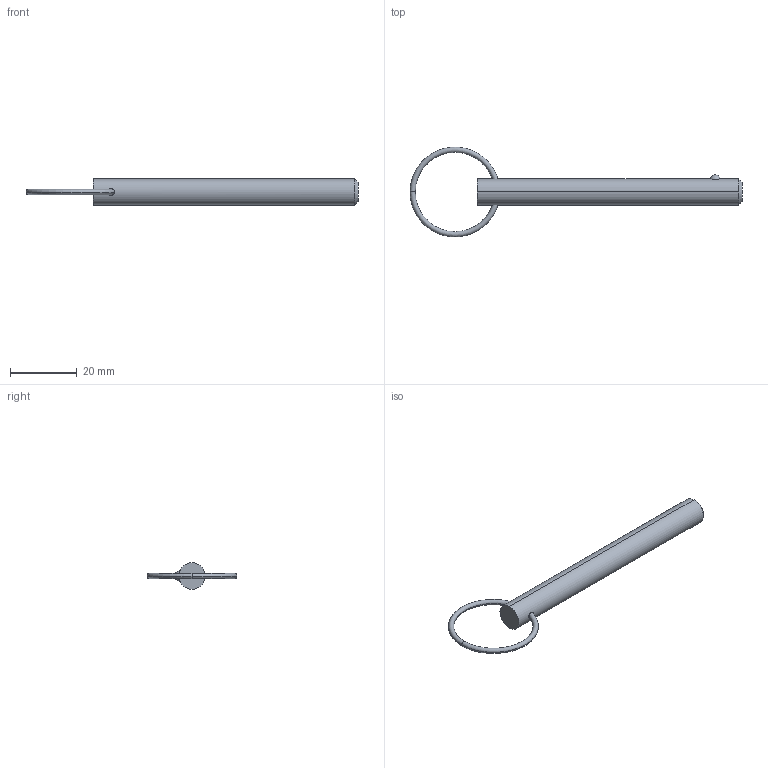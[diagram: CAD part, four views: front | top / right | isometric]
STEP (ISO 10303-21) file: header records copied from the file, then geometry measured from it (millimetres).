
FILE_DESCRIPTION (( 'STEP AP203' ), '1' );
FILE_NAME ('33012.W3125.step', '2024-11-01T14:08:26', ( '' ), ( '' ), 'SwSTEP 2.0', 'SolidWorks 2019', '' );
FILE_SCHEMA (( 'CONFIG_CONTROL_DESIGN' ));
Length unit declared in the file: millimetre
Products named in the file (3): Part2_33012.W3125; 33012.W3125; Part1_33012.W3125
Assembly tree (2 placements, depth 2):
  33012.W3125
    Part1_33012.W3125
    Part2_33012.W3125
Bounding box: 99.63 x 26.99 x 7.94 mm (x, y, z)
Volume: 4057.8 mm3; surface area: 2509.6 mm2
Topology: 2 solids, 2 shells, 16 faces, 31 edges, 18 vertices
Faces by surface type: torus 8, sphere 2, cone 2, cylinder 2, plane 2
Entity records: 827 total; most frequent: CARTESIAN_POINT 184, DIRECTION 88, ORIENTED_EDGE 62, AXIS2_PLACEMENT_3D 42, EDGE_CURVE 31, PERSON_AND_ORGANIZATION 26, CIRCLE 21, CALENDAR_DATE 19
